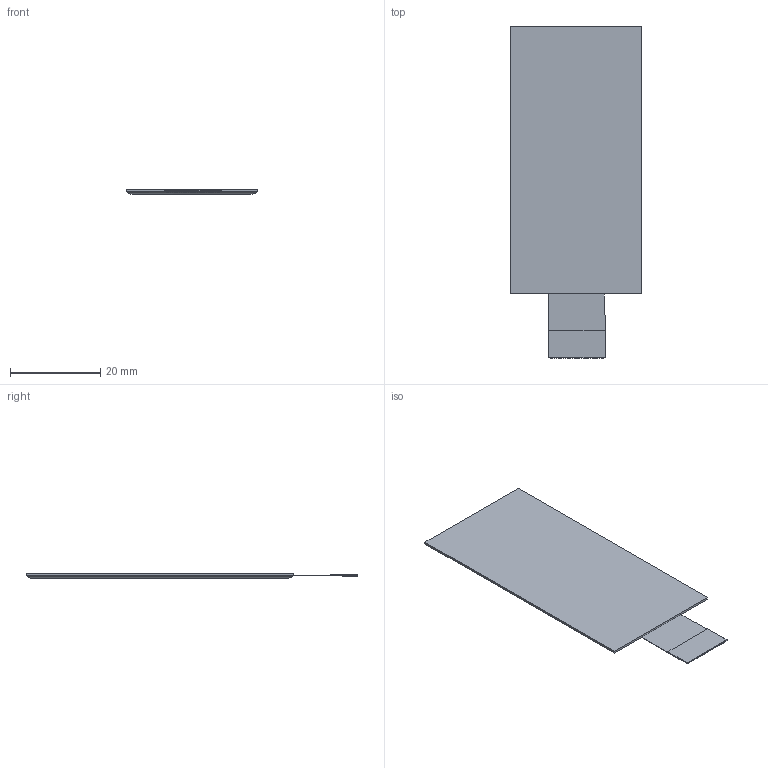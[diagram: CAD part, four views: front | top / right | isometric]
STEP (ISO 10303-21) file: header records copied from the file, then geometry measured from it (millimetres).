
FILE_DESCRIPTION (( 'STEP AP214' ), '1' );
FILE_NAME ('CFAP122250A0-0213.STEP', '2020-10-22T21:22:44', ( '' ), ( '' ), 'SwSTEP 2.0', 'SolidWorks 2020', '' );
FILE_SCHEMA (( 'AUTOMOTIVE_DESIGN' ));
Length unit declared in the file: millimetre
Products named in the file (1): CFAP122250A0-0213
Bounding box: 29.2 x 73.5 x 1.05 mm (x, y, z)
Volume: 1797.4 mm3; surface area: 7639.7 mm2
Topology: 28 solids, 28 shells, 177 faces, 367 edges, 250 vertices
Faces by surface type: plane 171, cylinder 6
Entity records: 6694 total; most frequent: CARTESIAN_POINT 807, ORIENTED_EDGE 734, DIRECTION 723, EDGE_CURVE 367, LINE 359, VECTOR 359, VERTEX_POINT 250, UNCERTAINTY_MEASURE_WITH_UNIT 194
